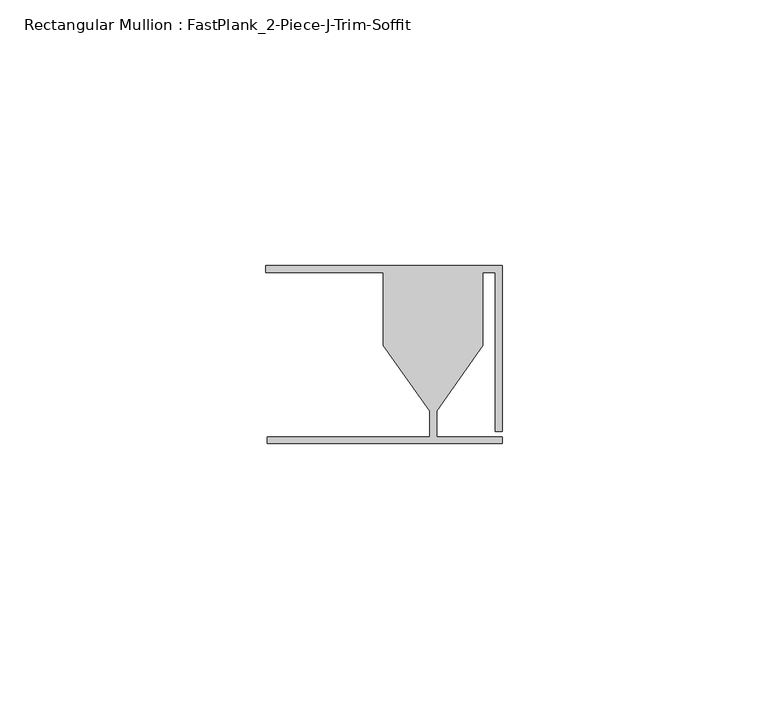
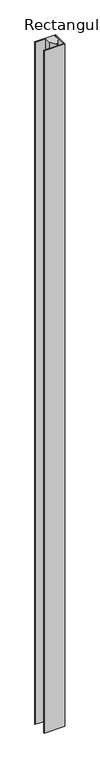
"""IFC4 building model written with IfcOpenShell, lengths in millimetres: member geometry, Rectangular Mullion : FastPlank_2-Piece-J-Trim-Soffit."""

from ifc_helpers import new_model, si_unit, frame, origin, place, context, project, spatial, polyline, outline, extrude, source, transform, mapped, element, save


def rectangular_mullion_fastplank_2_piece_j_trim_soffit_3acf384f(model_context):
    return source(origin(), model_context, "Body", "SweptSolid", [
        extrude(outline(polyline([(0.0, -24.0545052), (-44.2023711, -24.0545052), (-44.2023711, -22.7538154), (-13.6176438, -22.7538154), (-13.6176438, -17.8958113), (-22.3299553, -5.5376243), (-22.3299553, 8.1461228), (-44.4475015, 8.1461228), (-44.4475015, 9.4461202), (0.0, 9.4461202), (0.0, -21.7539969), (-1.2999974, -21.7539969), (-1.2999974, 8.1461228), (-3.6053348, 8.1461228), (-3.6053348, -5.5376243), (-12.3176464, -17.8958113), (-12.3176464, -22.7538154), (0.0, -22.7538154), (0.0, -24.0545052)])), frame((0.0, 0.0, -1545.9363103), z_axis=(0.0, 0.0, 1.0), x_axis=(1.0, 0.0, 0.0)), (0.0, 0.0, 1.0), 1545.9363103),
    ])


if __name__ == "__main__":
    model = new_model("IFC4")
    model_context = context("Model", 3, world=origin())
    ifc_project = project(units=[si_unit("LENGTHUNIT", "METRE", prefix="MILLI")], contexts=[model_context])
    site = spatial("IfcSite", under=ifc_project)
    building = spatial("IfcBuilding", under=site)
    placement = place(None, origin())
    rectangular_mullion_fastplank_2_piece_j_trim_soffit_shape = rectangular_mullion_fastplank_2_piece_j_trim_soffit_3acf384f(model_context)
    element("IfcMember", 1, ObjectType="Rectangular Mullion : FastPlank_2-Piece-J-Trim-Soffit", at=placement, inside=building, context=model_context, shape_type="MappedRepresentation", body=[
        mapped(rectangular_mullion_fastplank_2_piece_j_trim_soffit_shape, transform((0.0, 0.0, 0.0), x_axis=(1.0, 0.0, 0.0), y_axis=(0.0, 1.0, 0.0), z_axis=(0.0, 0.0, 1.0))),
    ])
    save(model, "model.ifc")
